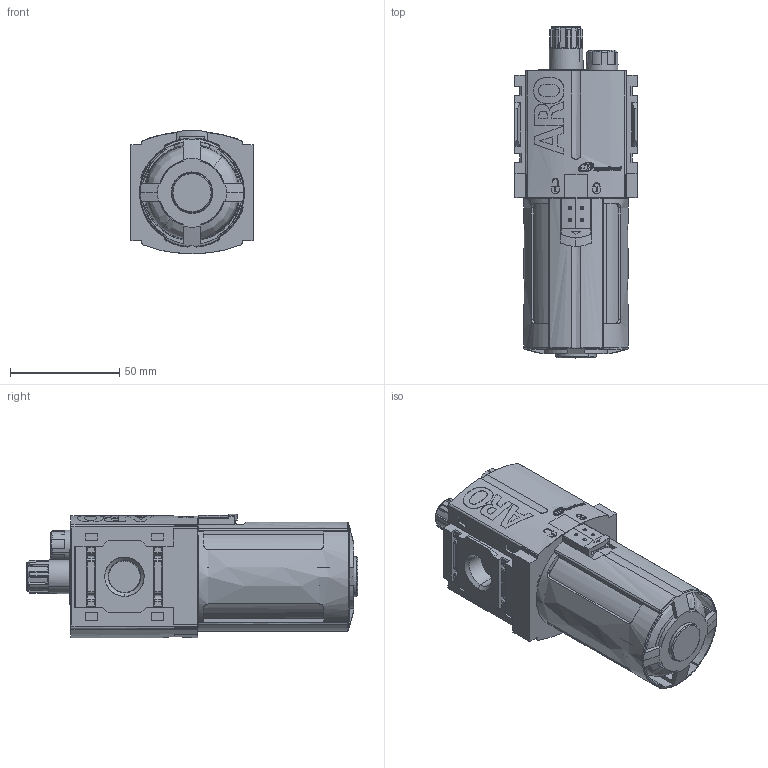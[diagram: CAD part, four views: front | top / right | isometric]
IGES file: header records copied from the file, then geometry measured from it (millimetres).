
Global section: file name: C:\Documents and Settings\szeedyk\Desktop\L362X1-X0X_01.igs; native system: NX V4.0; preprocessor: UGS NX IGES V4.0; date: 20090204.072619; units: inch
Bounding box: 56 x 152.1 x 56.65 mm (x, y, z)
Surface area: 51544.8 mm2 (no closed solid volume)
Topology: 0 solids, 0 shells, 1650 faces, 9508 edges, 9504 vertices
Faces by surface type: bspline 1650
